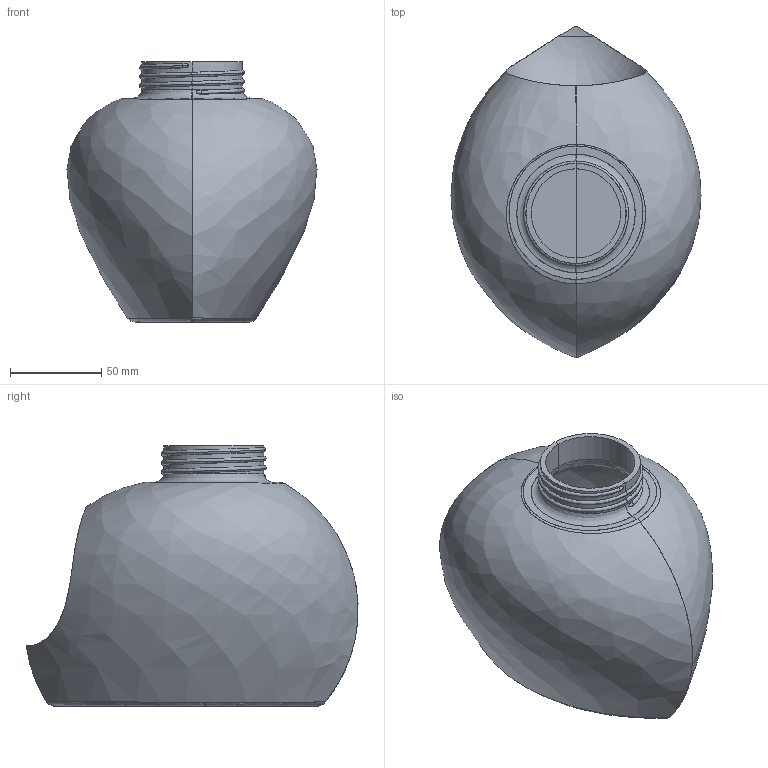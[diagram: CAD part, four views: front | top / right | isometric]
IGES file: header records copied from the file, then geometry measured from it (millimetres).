
Start section: START RECORD GO HERE.
Global section: file name: c1-Xam-mar_Jimenez_Ramon-solucion-posible.igs; native system: IBM CATIA IGES - CATIA Version 5 Release 19 ; preprocessor: CATIA Version 5 Release 19 ; author: andres.garcia; organization: IQS; date: 20200131.143949; units: millimetre
Bounding box: 137.26 x 182.27 x 143 mm (x, y, z)
Surface area: 143143 mm2 (no closed solid volume)
Topology: 0 solids, 0 shells, 54 faces, 252 edges, 248 vertices
Faces by surface type: bspline 32, revolution 16, plane 6
